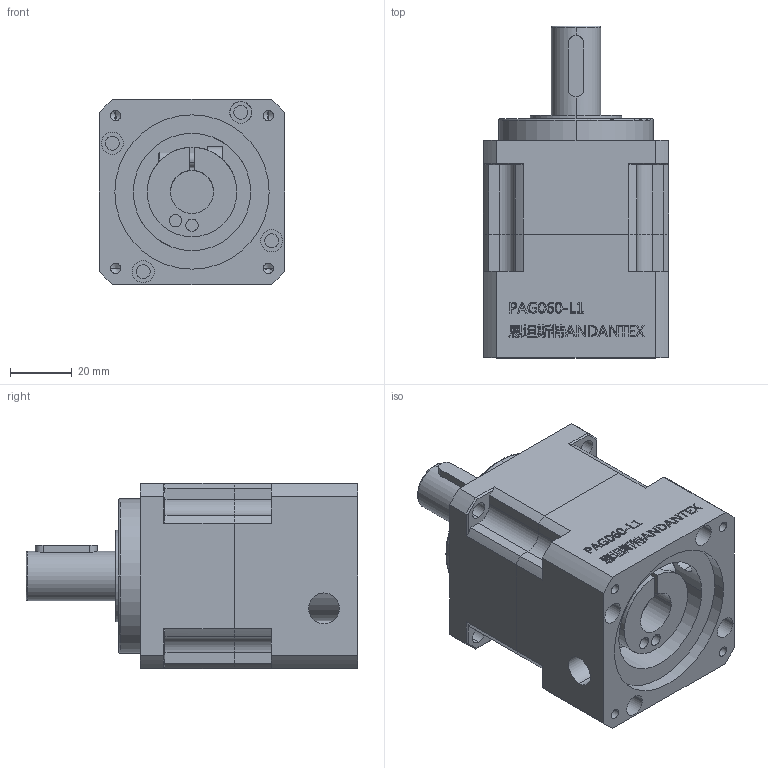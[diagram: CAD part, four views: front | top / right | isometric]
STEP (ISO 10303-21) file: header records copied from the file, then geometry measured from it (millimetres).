
FILE_DESCRIPTION (( 'STEP AP203' ), '1' );
FILE_NAME ('PAG060-L1塋拊佴杻ANDANTEX.STEP', '2021-04-10T07:46:36', ( 'Windows User' ), ( 'P R C' ), 'SwSTEP 2.0', 'SolidWorks 2016', '' );
FILE_SCHEMA (( 'CONFIG_CONTROL_DESIGN' ));
Length unit declared in the file: millimetre
Products named in the file (1): PAG060-L1塋拊佴杻ANDANTEX
Bounding box: 60 x 107.5 x 60 mm (x, y, z)
Volume: 224097.7 mm3; surface area: 49134.6 mm2
Topology: 4 solids, 4 shells, 728 faces, 1940 edges, 1274 vertices
Faces by surface type: plane 450, cylinder 126, bspline 116, cone 28, torus 8
Entity records: 27368 total; most frequent: CARTESIAN_POINT 9759, ORIENTED_EDGE 3844, DIRECTION 3184, EDGE_CURVE 1922, LINE 1340, VECTOR 1340, VERTEX_POINT 1274, AXIS2_PLACEMENT_3D 922
